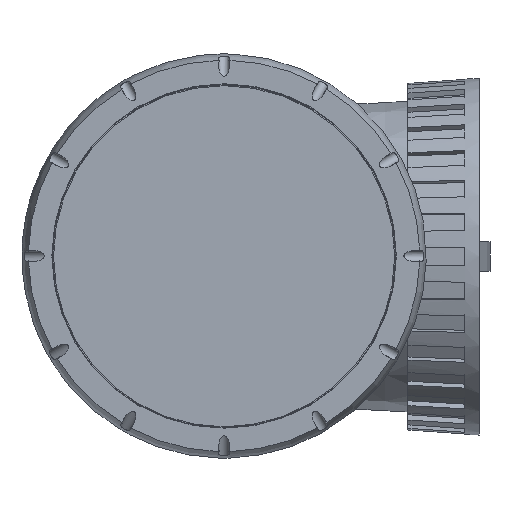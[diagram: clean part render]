
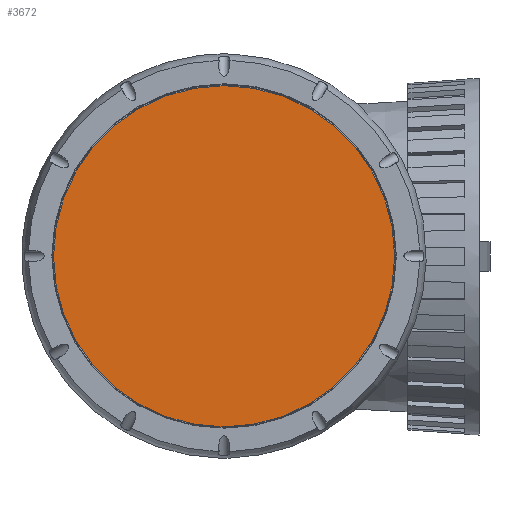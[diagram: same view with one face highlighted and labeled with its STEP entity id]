
A CAD part, top view. The second image highlights one B-rep face of the part: STEP entity #3672.
In plain terms, the highlighted planar face has unit normal (0, 0, 1).
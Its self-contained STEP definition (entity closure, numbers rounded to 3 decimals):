
#722=PLANE('',#3895);
#915=FACE_OUTER_BOUND('',#1126,.T.);
#1126=EDGE_LOOP('',(#2388));
#1354=CIRCLE('',#3892,62.6);
#1476=VERTEX_POINT('',#5224);
#1844=EDGE_CURVE('',#1476,#1476,#1354,.T.);
#2388=ORIENTED_EDGE('',*,*,#1844,.T.);
#3672=ADVANCED_FACE('',(#915),#722,.T.);
#3892=AXIS2_PLACEMENT_3D('',#5225,#4226,#4227);
#3895=AXIS2_PLACEMENT_3D('',#5229,#4232,#4233);
#4226=DIRECTION('center_axis',(0.,0.,1.));
#4227=DIRECTION('ref_axis',(-1.,0.,0.));
#4232=DIRECTION('center_axis',(0.,0.,1.));
#4233=DIRECTION('ref_axis',(1.,0.,0.));
#5224=CARTESIAN_POINT('',(62.6,0.,229.9));
#5225=CARTESIAN_POINT('Origin',(0.,0.,229.9));
#5229=CARTESIAN_POINT('Origin',(0.,0.,229.9));
